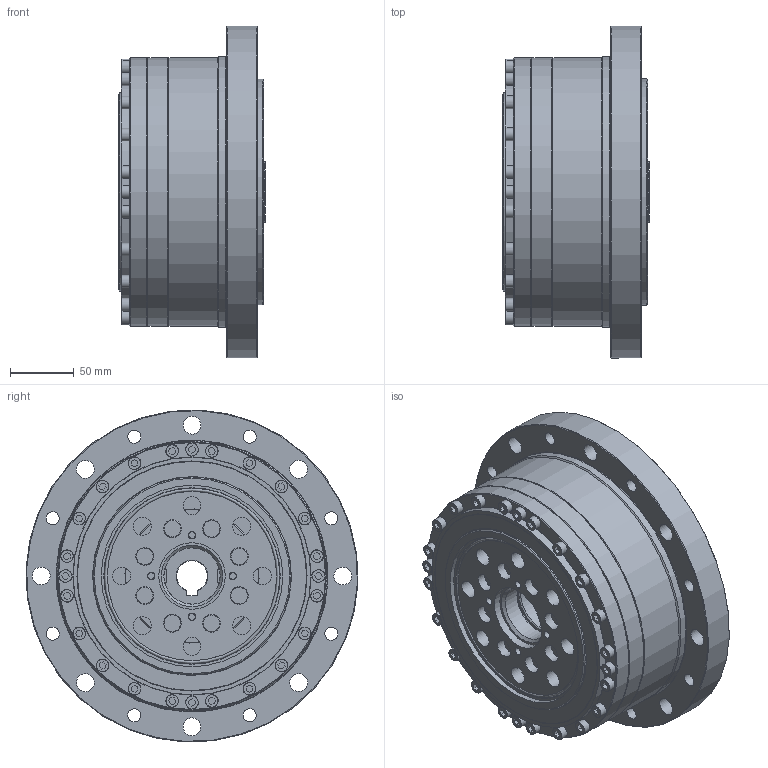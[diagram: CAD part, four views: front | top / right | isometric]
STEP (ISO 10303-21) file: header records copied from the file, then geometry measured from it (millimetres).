
FILE_DESCRIPTION (( 'STEP AP203' ), '1' );
FILE_NAME ('FCG-65-XXX-AO.STEP', '2025-04-08T11:38:58', ( '微软用户' ), ( '微软中国' ), 'SwSTEP 2.0', 'SolidWorks 2016', '' );
FILE_SCHEMA (( 'CONFIG_CONTROL_DESIGN' ));
Length unit declared in the file: millimetre
Products named in the file (1): FCG-65-XXX-AO
Bounding box: 115 x 259.75 x 259.75 mm (x, y, z)
Volume: 2790787.1 mm3; surface area: 793012 mm2
Topology: 78 solids, 78 shells, 1135 faces, 2622 edges, 1684 vertices
Faces by surface type: plane 534, cylinder 332, cone 156, torus 109, bspline 4
Full cylindrical faces by diameter (mm): 3 x2, 4.2 x20, 5 x8, 6 x36, 6.6 x40, 10 x24, 10.2 x8, 14 x32, 15.5 x8, 17.5 x8, 21 x8, 44 x2, 45.5 x1, 48 x3, 49 x3, 52 x4, 60 x1, 68 x1, 104 x2, 105 x1, 108 x1, 117.856 x1, 125.23 x2, 128.78 x1, 132.6 x1, 138 x2, 142 x1, 145.929 x1, 148.23 x1, 151.44 x2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
Entity records: 32040 total; most frequent: CARTESIAN_POINT 7989, DIRECTION 5152, ORIENTED_EDGE 3994, AXIS2_PLACEMENT_3D 2123, EDGE_CURVE 1997, EDGE_LOOP 1914, VERTEX_POINT 1555, FACE_OUTER_BOUND 1451
